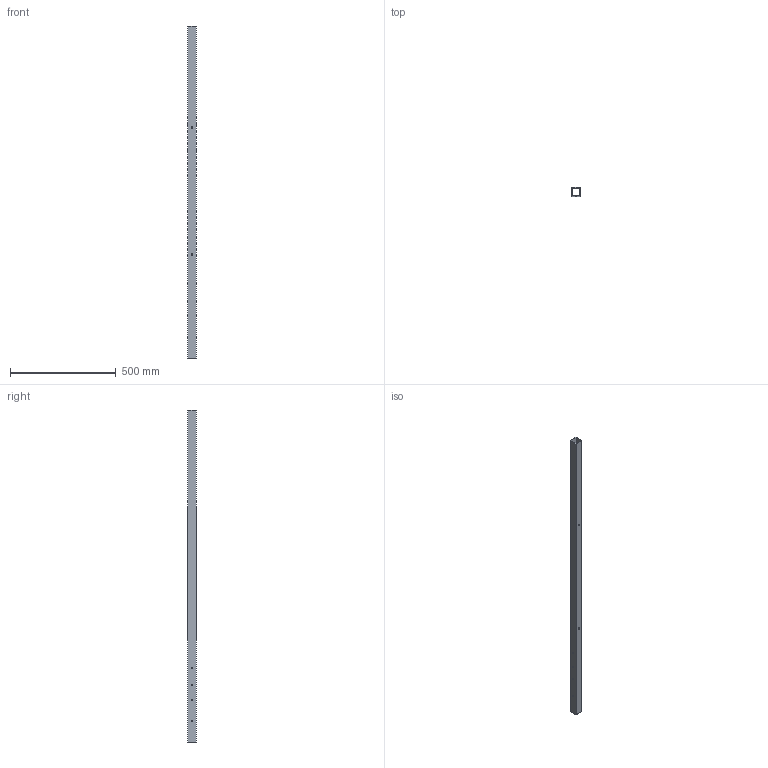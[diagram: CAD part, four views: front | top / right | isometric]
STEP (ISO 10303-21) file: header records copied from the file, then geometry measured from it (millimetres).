
FILE_DESCRIPTION(('golf model'),'2;1');
FILE_NAME('golf','',(''),(''),'golf_step_io','golf','');
FILE_SCHEMA(('AUTOMOTIVE_DESIGN { 1 0 10303 214 1 1 1 1 }'));
Length unit declared in the file: millimetre
Products named in the file (2): ASSEMBLY; cabinet_stand.upright_1
Assembly tree (1 placements, depth 2):
  ASSEMBLY
    cabinet_stand.upright_1
Bounding box: 40 x 40 x 1570 mm (x, y, z)
Volume: 695746.4 mm3; surface area: 465472.9 mm2
Topology: 1 solids, 1 shells, 22 faces, 60 edges, 40 vertices
Faces by surface type: cylinder 12, plane 10
Full cylindrical faces by diameter (mm): 5.5 x8, 9 x4
Entity records: 734 total; most frequent: DIRECTION 120, CARTESIAN_POINT 112, ORIENTED_EDGE 96, EDGE_LOOP 60, FACE_BOUND 50, AXIS2_PLACEMENT_3D 48, EDGE_CURVE 48, VERTEX_POINT 40
